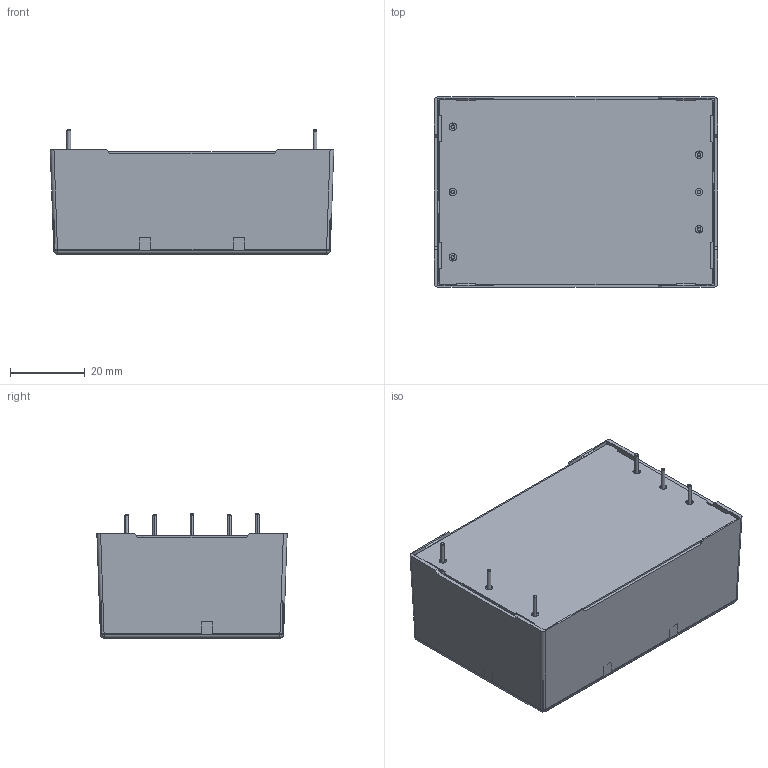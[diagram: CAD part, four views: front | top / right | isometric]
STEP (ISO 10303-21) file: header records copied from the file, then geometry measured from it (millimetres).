
FILE_DESCRIPTION (( 'STEP AP214' ), '1' );
FILE_NAME ('tms25-pcb-dual.STEP', '2015-12-22T15:24:55', ( '' ), ( '' ), 'SwSTEP 2.0', 'SolidWorks 2013', '' );
FILE_SCHEMA (( 'AUTOMOTIVE_DESIGN' ));
Length unit declared in the file: millimetre
Products named in the file (4): Pin; Base; Case; tms25-pcb-dual
Assembly tree (8 placements, depth 2):
  tms25-pcb-dual
    Case
    Base
    Pin  x6
Bounding box: 76 x 51 x 33.3 mm (x, y, z)
Volume: 8477.3 mm3; surface area: 28569.4 mm2
Topology: 8 solids, 8 shells, 256 faces, 643 edges, 402 vertices
Faces by surface type: plane 141, cylinder 83, cone 24, bspline 4, sphere 4
Entity records: 7411 total; most frequent: CARTESIAN_POINT 1302, ORIENTED_EDGE 1138, DIRECTION 1085, EDGE_CURVE 569, VECTOR 443, LINE 443, VERTEX_POINT 362, AXIS2_PLACEMENT_3D 321
